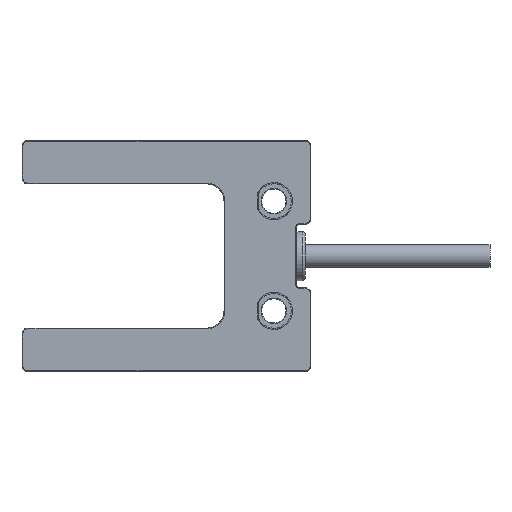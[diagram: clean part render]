
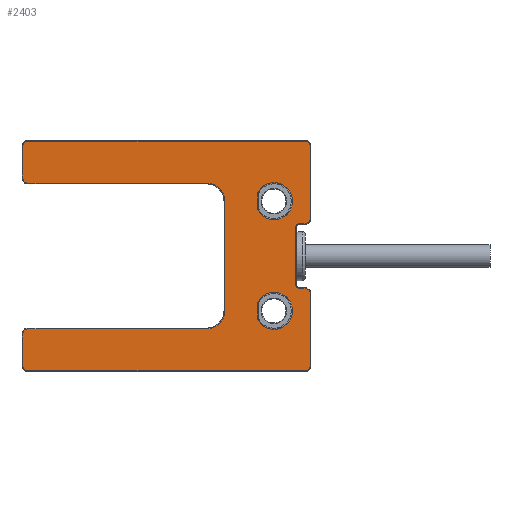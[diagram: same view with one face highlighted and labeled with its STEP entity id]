
A CAD part, top view. The second image highlights one B-rep face of the part: STEP entity #2403.
In plain terms, the highlighted planar face has unit normal (0, 0, 1).
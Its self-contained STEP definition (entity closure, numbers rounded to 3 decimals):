
#548=LINE('',#11766,#1207);
#549=LINE('',#11768,#1208);
#550=LINE('',#11772,#1209);
#551=LINE('',#11777,#1210);
#552=LINE('',#11781,#1211);
#553=LINE('',#11785,#1212);
#554=LINE('',#11789,#1213);
#555=LINE('',#11793,#1214);
#556=LINE('',#11797,#1215);
#557=LINE('',#11801,#1216);
#558=LINE('',#11805,#1217);
#559=LINE('',#11809,#1218);
#560=LINE('',#11813,#1219);
#561=LINE('',#11817,#1220);
#1207=VECTOR('',#9147,1.);
#1208=VECTOR('',#9150,1.);
#1209=VECTOR('',#9153,1.);
#1210=VECTOR('',#9158,1.);
#1211=VECTOR('',#9161,1.);
#1212=VECTOR('',#9164,1.);
#1213=VECTOR('',#9167,1.);
#1214=VECTOR('',#9170,1.);
#1215=VECTOR('',#9173,1.);
#1216=VECTOR('',#9176,1.);
#1217=VECTOR('',#9179,1.);
#1218=VECTOR('',#9182,1.);
#1219=VECTOR('',#9185,1.);
#1220=VECTOR('',#9188,1.);
#1718=PLANE('',#7555);
#2403=ADVANCED_FACE('',(#2662,#2663,#2664),#1718,.F.);
#2662=FACE_BOUND('',#2980,.T.);
#2663=FACE_BOUND('',#2981,.T.);
#2664=FACE_BOUND('',#2982,.T.);
#2980=EDGE_LOOP('',(#4497,#4498));
#2981=EDGE_LOOP('',(#4499,#4500));
#2982=EDGE_LOOP('',(#4501,#4502,#4503,#4504,#4505,#4506,#4507,#4508,#4509,
#4510,#4511,#4512,#4513,#4514,#4515,#4516,#4517,#4518,#4519,#4520,#4521,
#4522,#4523,#4524));
#4497=ORIENTED_EDGE('',*,*,#6574,.F.);
#4498=ORIENTED_EDGE('',*,*,#6559,.F.);
#4499=ORIENTED_EDGE('',*,*,#6575,.F.);
#4500=ORIENTED_EDGE('',*,*,#6576,.F.);
#4501=ORIENTED_EDGE('',*,*,#6577,.F.);
#4502=ORIENTED_EDGE('',*,*,#6573,.T.);
#4503=ORIENTED_EDGE('',*,*,#6578,.F.);
#4504=ORIENTED_EDGE('',*,*,#6579,.T.);
#4505=ORIENTED_EDGE('',*,*,#6580,.F.);
#4506=ORIENTED_EDGE('',*,*,#6581,.T.);
#4507=ORIENTED_EDGE('',*,*,#6582,.F.);
#4508=ORIENTED_EDGE('',*,*,#6583,.T.);
#4509=ORIENTED_EDGE('',*,*,#6584,.F.);
#4510=ORIENTED_EDGE('',*,*,#6585,.T.);
#4511=ORIENTED_EDGE('',*,*,#6586,.F.);
#4512=ORIENTED_EDGE('',*,*,#6587,.T.);
#4513=ORIENTED_EDGE('',*,*,#6588,.F.);
#4514=ORIENTED_EDGE('',*,*,#6589,.T.);
#4515=ORIENTED_EDGE('',*,*,#6590,.F.);
#4516=ORIENTED_EDGE('',*,*,#6591,.T.);
#4517=ORIENTED_EDGE('',*,*,#6592,.F.);
#4518=ORIENTED_EDGE('',*,*,#6593,.T.);
#4519=ORIENTED_EDGE('',*,*,#6594,.F.);
#4520=ORIENTED_EDGE('',*,*,#6595,.T.);
#4521=ORIENTED_EDGE('',*,*,#6596,.F.);
#4522=ORIENTED_EDGE('',*,*,#6597,.T.);
#4523=ORIENTED_EDGE('',*,*,#6598,.F.);
#4524=ORIENTED_EDGE('',*,*,#6599,.T.);
#5651=VERTEX_POINT('',#11732);
#5653=VERTEX_POINT('',#11735);
#5663=VERTEX_POINT('',#11763);
#5664=VERTEX_POINT('',#11765);
#5665=VERTEX_POINT('',#11770);
#5666=VERTEX_POINT('',#11771);
#5667=VERTEX_POINT('',#11774);
#5668=VERTEX_POINT('',#11776);
#5669=VERTEX_POINT('',#11778);
#5670=VERTEX_POINT('',#11780);
#5671=VERTEX_POINT('',#11782);
#5672=VERTEX_POINT('',#11784);
#5673=VERTEX_POINT('',#11786);
#5674=VERTEX_POINT('',#11788);
#5675=VERTEX_POINT('',#11790);
#5676=VERTEX_POINT('',#11792);
#5677=VERTEX_POINT('',#11794);
#5678=VERTEX_POINT('',#11796);
#5679=VERTEX_POINT('',#11798);
#5680=VERTEX_POINT('',#11800);
#5681=VERTEX_POINT('',#11802);
#5682=VERTEX_POINT('',#11804);
#5683=VERTEX_POINT('',#11806);
#5684=VERTEX_POINT('',#11808);
#5685=VERTEX_POINT('',#11810);
#5686=VERTEX_POINT('',#11812);
#5687=VERTEX_POINT('',#11814);
#5688=VERTEX_POINT('',#11816);
#6559=EDGE_CURVE('',#5651,#5653,#6993,.T.);
#6573=EDGE_CURVE('',#5663,#5664,#548,.T.);
#6574=EDGE_CURVE('',#5653,#5651,#549,.T.);
#6575=EDGE_CURVE('',#5665,#5666,#6997,.T.);
#6576=EDGE_CURVE('',#5666,#5665,#550,.T.);
#6577=EDGE_CURVE('',#5663,#5667,#6998,.T.);
#6578=EDGE_CURVE('',#5668,#5664,#6999,.T.);
#6579=EDGE_CURVE('',#5668,#5669,#551,.T.);
#6580=EDGE_CURVE('',#5670,#5669,#7000,.T.);
#6581=EDGE_CURVE('',#5670,#5671,#552,.T.);
#6582=EDGE_CURVE('',#5672,#5671,#7001,.T.);
#6583=EDGE_CURVE('',#5672,#5673,#553,.T.);
#6584=EDGE_CURVE('',#5674,#5673,#7002,.T.);
#6585=EDGE_CURVE('',#5674,#5675,#554,.T.);
#6586=EDGE_CURVE('',#5676,#5675,#7003,.T.);
#6587=EDGE_CURVE('',#5676,#5677,#555,.T.);
#6588=EDGE_CURVE('',#5678,#5677,#7004,.T.);
#6589=EDGE_CURVE('',#5678,#5679,#556,.T.);
#6590=EDGE_CURVE('',#5680,#5679,#7005,.T.);
#6591=EDGE_CURVE('',#5680,#5681,#557,.T.);
#6592=EDGE_CURVE('',#5682,#5681,#7006,.T.);
#6593=EDGE_CURVE('',#5682,#5683,#558,.T.);
#6594=EDGE_CURVE('',#5684,#5683,#7007,.T.);
#6595=EDGE_CURVE('',#5684,#5685,#559,.T.);
#6596=EDGE_CURVE('',#5686,#5685,#7008,.T.);
#6597=EDGE_CURVE('',#5686,#5687,#560,.T.);
#6598=EDGE_CURVE('',#5688,#5687,#7009,.T.);
#6599=EDGE_CURVE('',#5688,#5667,#561,.T.);
#6993=CIRCLE('',#7532,3.2);
#6997=CIRCLE('',#7542,3.2);
#6998=CIRCLE('',#7543,0.9);
#6999=CIRCLE('',#7544,0.6);
#7000=CIRCLE('',#7545,0.6);
#7001=CIRCLE('',#7546,0.9);
#7002=CIRCLE('',#7547,0.9);
#7003=CIRCLE('',#7548,0.9);
#7004=CIRCLE('',#7549,0.9);
#7005=CIRCLE('',#7550,3.1);
#7006=CIRCLE('',#7551,3.1);
#7007=CIRCLE('',#7552,0.9);
#7008=CIRCLE('',#7553,0.9);
#7009=CIRCLE('',#7554,0.9);
#7532=AXIS2_PLACEMENT_3D('',#11734,#9122,#9123);
#7542=AXIS2_PLACEMENT_3D('',#11769,#9151,#9152);
#7543=AXIS2_PLACEMENT_3D('',#11773,#9154,#9155);
#7544=AXIS2_PLACEMENT_3D('',#11775,#9156,#9157);
#7545=AXIS2_PLACEMENT_3D('',#11779,#9159,#9160);
#7546=AXIS2_PLACEMENT_3D('',#11783,#9162,#9163);
#7547=AXIS2_PLACEMENT_3D('',#11787,#9165,#9166);
#7548=AXIS2_PLACEMENT_3D('',#11791,#9168,#9169);
#7549=AXIS2_PLACEMENT_3D('',#11795,#9171,#9172);
#7550=AXIS2_PLACEMENT_3D('',#11799,#9174,#9175);
#7551=AXIS2_PLACEMENT_3D('',#11803,#9177,#9178);
#7552=AXIS2_PLACEMENT_3D('',#11807,#9180,#9181);
#7553=AXIS2_PLACEMENT_3D('',#11811,#9183,#9184);
#7554=AXIS2_PLACEMENT_3D('',#11815,#9186,#9187);
#7555=AXIS2_PLACEMENT_3D('',#11818,#9189,#9190);
#9122=DIRECTION('',(0.,0.,1.));
#9123=DIRECTION('',(-1.,0.,0.));
#9147=DIRECTION('',(-1.,0.,0.));
#9150=DIRECTION('',(0.,-1.,0.));
#9151=DIRECTION('',(0.,0.,1.));
#9152=DIRECTION('',(-1.,0.,0.));
#9153=DIRECTION('',(0.,-1.,0.));
#9154=DIRECTION('',(0.,0.,-1.));
#9155=DIRECTION('',(0.,1.,0.));
#9156=DIRECTION('',(0.,0.,1.));
#9157=DIRECTION('',(-1.,0.,0.));
#9158=DIRECTION('',(0.,1.,0.));
#9159=DIRECTION('',(0.,0.,1.));
#9160=DIRECTION('',(0.,1.,0.));
#9161=DIRECTION('',(1.,0.,0.));
#9162=DIRECTION('',(0.,0.,-1.));
#9163=DIRECTION('',(1.,0.,0.));
#9164=DIRECTION('',(0.,1.,0.));
#9165=DIRECTION('',(0.,0.,-1.));
#9166=DIRECTION('',(0.,1.,0.));
#9167=DIRECTION('',(-1.,0.,0.));
#9168=DIRECTION('',(0.,0.,-1.));
#9169=DIRECTION('',(-1.,0.,0.));
#9170=DIRECTION('',(0.,-1.,0.));
#9171=DIRECTION('',(0.,0.,-1.));
#9172=DIRECTION('',(0.,-1.,0.));
#9173=DIRECTION('',(1.,0.,0.));
#9174=DIRECTION('',(0.,0.,1.));
#9175=DIRECTION('',(1.,0.,0.));
#9176=DIRECTION('',(0.,-1.,0.));
#9177=DIRECTION('',(0.,0.,1.));
#9178=DIRECTION('',(0.,-1.,0.));
#9179=DIRECTION('',(-1.,0.,0.));
#9180=DIRECTION('',(0.,0.,-1.));
#9181=DIRECTION('',(-1.,0.,0.));
#9182=DIRECTION('',(0.,-1.,0.));
#9183=DIRECTION('',(0.,0.,-1.));
#9184=DIRECTION('',(0.,-1.,0.));
#9185=DIRECTION('',(1.,0.,0.));
#9186=DIRECTION('',(0.,0.,-1.));
#9187=DIRECTION('',(1.,0.,0.));
#9188=DIRECTION('',(0.,1.,0.));
#9189=DIRECTION('',(0.,0.,-1.));
#9190=DIRECTION('',(1.,0.,0.));
#11732=CARTESIAN_POINT('',(0.786,79.045,5.1));
#11734=CARTESIAN_POINT('',(3.636,80.5,5.1));
#11735=CARTESIAN_POINT('',(0.786,81.955,5.1));
#11763=CARTESIAN_POINT('',(9.,65.4,5.1));
#11765=CARTESIAN_POINT('',(8.,65.4,5.1));
#11766=CARTESIAN_POINT('',(9.,65.4,5.1));
#11768=CARTESIAN_POINT('',(0.786,63.365,5.1));
#11769=CARTESIAN_POINT('',(3.636,61.5,5.1));
#11770=CARTESIAN_POINT('',(0.786,60.045,5.1));
#11771=CARTESIAN_POINT('',(0.786,62.955,5.1));
#11772=CARTESIAN_POINT('',(0.786,62.955,5.1));
#11773=CARTESIAN_POINT('',(9.,64.5,5.1));
#11774=CARTESIAN_POINT('',(9.9,64.5,5.1));
#11775=CARTESIAN_POINT('',(8.,66.,5.1));
#11776=CARTESIAN_POINT('',(7.4,66.,5.1));
#11777=CARTESIAN_POINT('',(7.4,66.,5.1));
#11778=CARTESIAN_POINT('',(7.4,76.,5.1));
#11779=CARTESIAN_POINT('',(8.,76.,5.1));
#11780=CARTESIAN_POINT('',(8.,76.6,5.1));
#11781=CARTESIAN_POINT('',(8.,76.6,5.1));
#11782=CARTESIAN_POINT('',(9.,76.6,5.1));
#11783=CARTESIAN_POINT('',(9.,77.5,5.1));
#11784=CARTESIAN_POINT('',(9.9,77.5,5.1));
#11785=CARTESIAN_POINT('',(9.9,66.5,5.1));
#11786=CARTESIAN_POINT('',(9.9,90.,5.1));
#11787=CARTESIAN_POINT('',(9.,90.,5.1));
#11788=CARTESIAN_POINT('',(9.,90.9,5.1));
#11789=CARTESIAN_POINT('',(9.,90.9,5.1));
#11790=CARTESIAN_POINT('',(-39.,90.9,5.1));
#11791=CARTESIAN_POINT('',(-39.,90.,5.1));
#11792=CARTESIAN_POINT('',(-39.9,90.,5.1));
#11793=CARTESIAN_POINT('',(-39.9,90.,5.1));
#11794=CARTESIAN_POINT('',(-39.9,84.5,5.1));
#11795=CARTESIAN_POINT('',(-39.,84.5,5.1));
#11796=CARTESIAN_POINT('',(-39.,83.6,5.1));
#11797=CARTESIAN_POINT('',(-39.,83.6,5.1));
#11798=CARTESIAN_POINT('',(-8.,83.6,5.1));
#11799=CARTESIAN_POINT('',(-8.,80.5,5.1));
#11800=CARTESIAN_POINT('',(-4.9,80.5,5.1));
#11801=CARTESIAN_POINT('',(-4.9,80.5,5.1));
#11802=CARTESIAN_POINT('',(-4.9,61.5,5.1));
#11803=CARTESIAN_POINT('',(-8.,61.5,5.1));
#11804=CARTESIAN_POINT('',(-8.,58.4,5.1));
#11805=CARTESIAN_POINT('',(-8.,58.4,5.1));
#11806=CARTESIAN_POINT('',(-39.,58.4,5.1));
#11807=CARTESIAN_POINT('',(-39.,57.5,5.1));
#11808=CARTESIAN_POINT('',(-39.9,57.5,5.1));
#11809=CARTESIAN_POINT('',(-39.9,57.5,5.1));
#11810=CARTESIAN_POINT('',(-39.9,52.,5.1));
#11811=CARTESIAN_POINT('',(-39.,52.,5.1));
#11812=CARTESIAN_POINT('',(-39.,51.1,5.1));
#11813=CARTESIAN_POINT('',(-39.,51.1,5.1));
#11814=CARTESIAN_POINT('',(9.,51.1,5.1));
#11815=CARTESIAN_POINT('',(9.,52.,5.1));
#11816=CARTESIAN_POINT('',(9.9,52.,5.1));
#11817=CARTESIAN_POINT('',(9.9,52.,5.1));
#11818=CARTESIAN_POINT('',(-40.,58.5,5.1));
